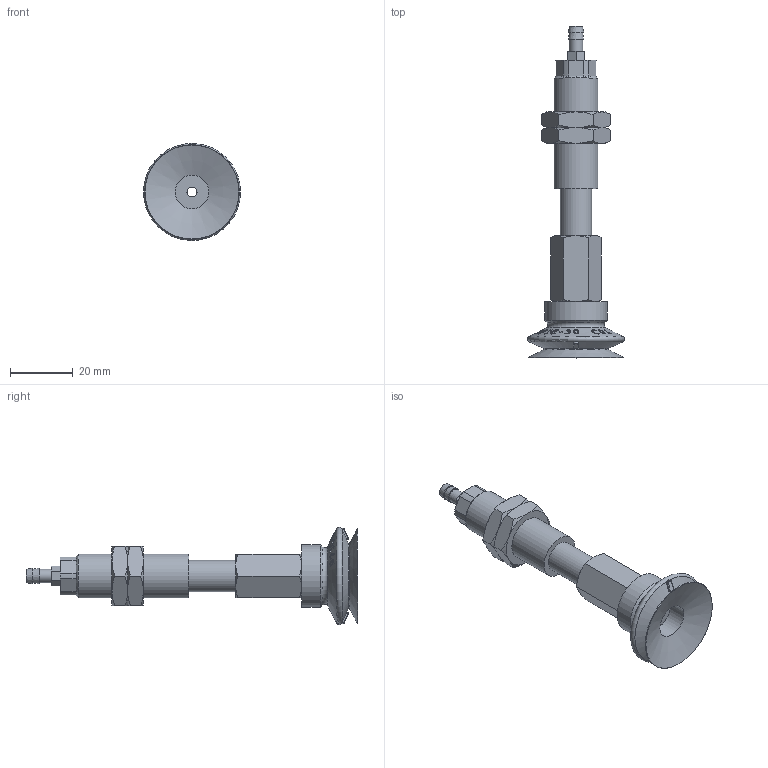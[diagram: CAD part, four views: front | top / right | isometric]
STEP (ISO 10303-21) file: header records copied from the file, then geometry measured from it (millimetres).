
FILE_DESCRIPTION(('STEP AP214'),'1');
FILE_NAME('-T.stp','2026-01-21T05:15:25',(' '),(' '),'Spatial InterOp 3D',' ',' ');
FILE_SCHEMA(('AUTOMOTIVE_DESIGN { 1 0 10303 214 1 1 1 1 }'));
Length unit declared in the file: millimetre
Products named in the file (8): BNABPJTS-30-15-※-T; T; ADAPTER; BPJG-30-※; Adapter-30-NAPJ; NUT-NAPJ-30-15-s; NAPJTS-30-15-FBODY; NAPJTS-30-15-MBODY
Assembly tree (8 placements, depth 2):
  BNABPJTS-30-15-※-T
    T
    ADAPTER
    BPJG-30-※
    Adapter-30-NAPJ
    NUT-NAPJ-30-15-s  x2
    NAPJTS-30-15-FBODY
    NAPJTS-30-15-MBODY
Bounding box: 30.99 x 106 x 30.99 mm (x, y, z)
Volume: 18169.5 mm3; surface area: 13319.1 mm2
Topology: 8 solids, 8 shells, 788 faces, 2177 edges, 1430 vertices
Faces by surface type: plane 679, cone 70, cylinder 32, torus 7
Full cylindrical faces by diameter (mm): 3 x4, 4.134 x1, 4.3 x1, 4.917 x1, 5 x1, 5.8 x1, 6 x1, 10 x2, 10.8 x1, 11 x1, 13.188 x2, 14 x1, 20 x1
Entity records: 31446 total; most frequent: CARTESIAN_POINT 7753, ORIENTED_EDGE 4176, DIRECTION 2665, EDGE_CURVE 2088, VERTEX_POINT 1397, B_SPLINE_CURVE_WITH_KNOTS 1084, LINE 891, VECTOR 891
